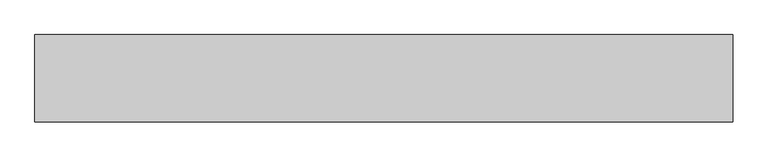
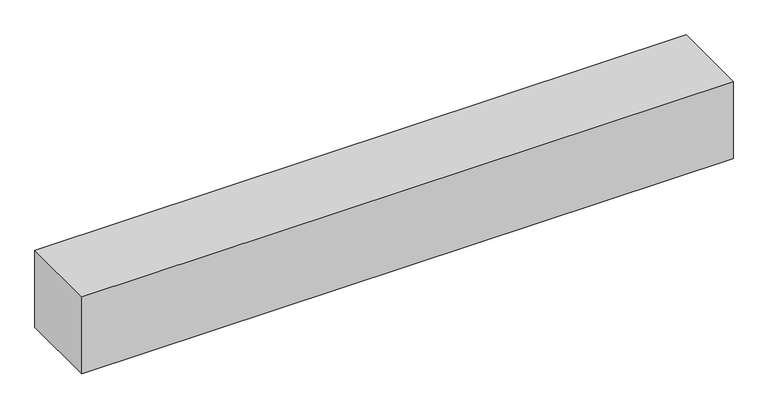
"""IFC4 building model written with IfcOpenShell, lengths in millimetres: proxy geometry, 機械基礎(電気) : 機械基礎(電気)."""

from ifc_helpers import new_model, si_unit, origin, origin_with_axes, place, context, project, spatial, polyline, outline, extrude, source, transform, mapped, element, save


def specialty_equipment_f9ccd08d(model_context):
    return source(origin(), model_context, "Body", "SweptSolid", [
        extrude(outline(polyline([(2000.0, -250.0), (-2000.0, -250.0), (-2000.0, 250.0), (2000.0, 250.0), (2000.0, -250.0)])), origin_with_axes(), (0.0, 0.0, 1.0), 500.0),
    ])


if __name__ == "__main__":
    model = new_model("IFC4")
    model_context = context("Model", 3, world=origin())
    ifc_project = project(units=[si_unit("LENGTHUNIT", "METRE", prefix="MILLI")], contexts=[model_context])
    site = spatial("IfcSite", under=ifc_project)
    building = spatial("IfcBuilding", under=site)
    placement = place(None, origin())
    specialty_equipment_shape = specialty_equipment_f9ccd08d(model_context)
    element("IfcBuildingElementProxy", 1, Name="機械基礎(電気) : 機械基礎(電気)", ObjectType="機械基礎(電気) : 機械基礎(電気)", at=placement, inside=building, context=model_context, shape_type="MappedRepresentation", body=[
        mapped(specialty_equipment_shape, transform((0.0, 0.0, 0.0), x_axis=(1.0, 0.0, 0.0), y_axis=(0.0, 1.0, 0.0), z_axis=(0.0, 0.0, 1.0))),
    ])
    save(model, "model.ifc")
